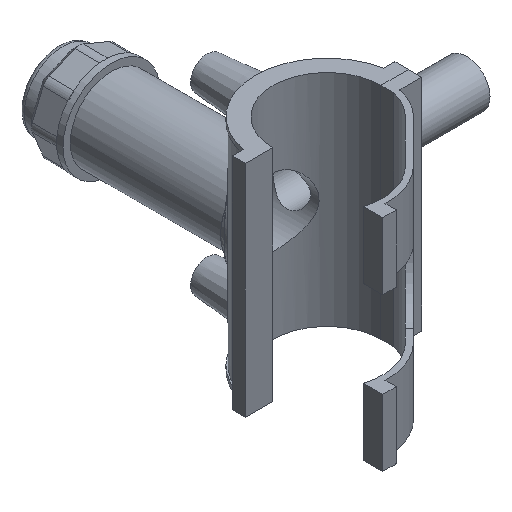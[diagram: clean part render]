
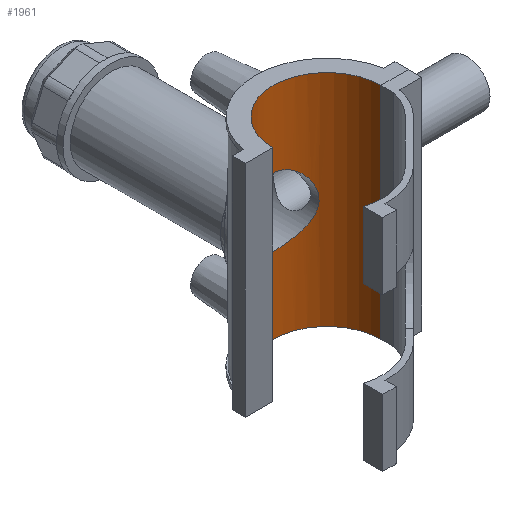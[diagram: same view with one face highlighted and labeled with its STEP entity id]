
A CAD part, isometric view. The second image highlights one B-rep face of the part: STEP entity #1961.
In plain terms, the highlighted cylindrical face has radius 24.55 mm (diameter 49.1 mm), a partial arc.
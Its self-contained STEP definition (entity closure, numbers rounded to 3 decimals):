
#51=FACE_BOUND('',#632,.T.);
#52=B_SPLINE_CURVE_WITH_KNOTS('',3,(#2806,#2807,#2808,#2809,#2810,#2811,
#2812,#2813,#2814,#2815,#2816,#2817,#2818,#2819,#2820,#2821,#2822,#2823,
#2824,#2825,#2826,#2827,#2828,#2829,#2830,#2831,#2832,#2833,#2834,#2835,
#2836,#2837,#2838,#2839,#2840,#2841,#2842,#2843),.UNSPECIFIED.,.F.,.F.,
(4,2,2,2,2,2,2,2,2,2,2,2,2,2,2,2,2,2,4),(0.,0.303,0.606,
1.212,1.813,2.113,2.414,2.714,
3.015,3.616,4.222,4.525,4.828,
5.131,5.434,6.04,6.641,6.941,
7.242),.UNSPECIFIED.);
#53=B_SPLINE_CURVE_WITH_KNOTS('',3,(#2844,#2845,#2846,#2847,#2848,#2849,
#2850,#2851,#2852,#2853,#2854,#2855,#2856,#2857),.UNSPECIFIED.,.F.,.F.,
(4,2,2,2,2,2,4),(7.242,7.542,7.843,8.444,
9.05,9.353,9.656),.UNSPECIFIED.);
#179=LINE('',#3751,#336);
#180=LINE('',#3755,#337);
#336=VECTOR('',#2638,10.);
#337=VECTOR('',#2641,10.);
#420=CYLINDRICAL_SURFACE('',#2175,24.55);
#511=FACE_OUTER_BOUND('',#631,.T.);
#631=EDGE_LOOP('',(#1664,#1665,#1666,#1667));
#632=EDGE_LOOP('',(#1668,#1669));
#733=CIRCLE('',#2172,24.55);
#734=CIRCLE('',#2174,24.55);
#753=VERTEX_POINT('',#2803);
#754=VERTEX_POINT('',#2805);
#891=VERTEX_POINT('',#3745);
#893=VERTEX_POINT('',#3749);
#894=VERTEX_POINT('',#3753);
#895=VERTEX_POINT('',#3754);
#945=EDGE_CURVE('',#754,#753,#52,.T.);
#946=EDGE_CURVE('',#753,#754,#53,.T.);
#1154=EDGE_CURVE('',#891,#893,#179,.T.);
#1155=EDGE_CURVE('',#894,#895,#180,.T.);
#1161=EDGE_CURVE('',#891,#895,#733,.T.);
#1162=EDGE_CURVE('',#894,#893,#734,.T.);
#1664=ORIENTED_EDGE('',*,*,#1155,.T.);
#1665=ORIENTED_EDGE('',*,*,#1161,.F.);
#1666=ORIENTED_EDGE('',*,*,#1154,.T.);
#1667=ORIENTED_EDGE('',*,*,#1162,.F.);
#1668=ORIENTED_EDGE('',*,*,#945,.T.);
#1669=ORIENTED_EDGE('',*,*,#946,.T.);
#1961=ADVANCED_FACE('',(#511,#51),#420,.F.);
#2172=AXIS2_PLACEMENT_3D('',#3764,#2649,#2650);
#2174=AXIS2_PLACEMENT_3D('',#3766,#2653,#2654);
#2175=AXIS2_PLACEMENT_3D('',#3769,#2657,#2658);
#2638=DIRECTION('',(0.,0.,-1.));
#2641=DIRECTION('',(0.,0.,1.));
#2649=DIRECTION('center_axis',(0.,0.,-1.));
#2650=DIRECTION('ref_axis',(-1.,0.,0.));
#2653=DIRECTION('center_axis',(0.,0.,1.));
#2654=DIRECTION('ref_axis',(-1.,0.,0.));
#2657=DIRECTION('center_axis',(0.,0.,1.));
#2658=DIRECTION('ref_axis',(-1.,0.,0.));
#2803=CARTESIAN_POINT('',(0.,24.55,-15.467));
#2805=CARTESIAN_POINT('',(-15.467,19.065,0.));
#2806=CARTESIAN_POINT('Ctrl Pts',(-15.467,19.065,0.));
#2807=CARTESIAN_POINT('Ctrl Pts',(-15.467,19.065,1.01));
#2808=CARTESIAN_POINT('Ctrl Pts',(-15.366,19.148,2.039));
#2809=CARTESIAN_POINT('Ctrl Pts',(-14.959,19.468,4.062));
#2810=CARTESIAN_POINT('Ctrl Pts',(-14.653,19.704,5.055));
#2811=CARTESIAN_POINT('Ctrl Pts',(-13.459,20.555,7.891));
#2812=CARTESIAN_POINT('Ctrl Pts',(-12.284,21.309,9.589));
#2813=CARTESIAN_POINT('Ctrl Pts',(-9.6,22.644,12.273));
#2814=CARTESIAN_POINT('Ctrl Pts',(-7.899,23.327,13.456));
#2815=CARTESIAN_POINT('Ctrl Pts',(-5.051,24.045,14.655));
#2816=CARTESIAN_POINT('Ctrl Pts',(-4.053,24.235,14.962));
#2817=CARTESIAN_POINT('Ctrl Pts',(-2.029,24.487,15.368));
#2818=CARTESIAN_POINT('Ctrl Pts',(-1.002,24.55,15.467));
#2819=CARTESIAN_POINT('Ctrl Pts',(1.002,24.55,15.467));
#2820=CARTESIAN_POINT('Ctrl Pts',(2.029,24.487,15.368));
#2821=CARTESIAN_POINT('Ctrl Pts',(4.053,24.235,14.962));
#2822=CARTESIAN_POINT('Ctrl Pts',(5.051,24.045,14.655));
#2823=CARTESIAN_POINT('Ctrl Pts',(7.899,23.327,13.456));
#2824=CARTESIAN_POINT('Ctrl Pts',(9.6,22.644,12.273));
#2825=CARTESIAN_POINT('Ctrl Pts',(12.284,21.309,9.589));
#2826=CARTESIAN_POINT('Ctrl Pts',(13.459,20.555,7.891));
#2827=CARTESIAN_POINT('Ctrl Pts',(14.653,19.704,5.055));
#2828=CARTESIAN_POINT('Ctrl Pts',(14.959,19.468,4.062));
#2829=CARTESIAN_POINT('Ctrl Pts',(15.366,19.148,2.039));
#2830=CARTESIAN_POINT('Ctrl Pts',(15.467,19.065,1.01));
#2831=CARTESIAN_POINT('Ctrl Pts',(15.467,19.065,-1.01));
#2832=CARTESIAN_POINT('Ctrl Pts',(15.366,19.148,-2.039));
#2833=CARTESIAN_POINT('Ctrl Pts',(14.959,19.468,-4.062));
#2834=CARTESIAN_POINT('Ctrl Pts',(14.653,19.704,-5.055));
#2835=CARTESIAN_POINT('Ctrl Pts',(13.459,20.555,-7.891));
#2836=CARTESIAN_POINT('Ctrl Pts',(12.284,21.309,-9.589));
#2837=CARTESIAN_POINT('Ctrl Pts',(9.6,22.644,-12.273));
#2838=CARTESIAN_POINT('Ctrl Pts',(7.899,23.327,-13.456));
#2839=CARTESIAN_POINT('Ctrl Pts',(5.051,24.045,-14.655));
#2840=CARTESIAN_POINT('Ctrl Pts',(4.053,24.235,-14.962));
#2841=CARTESIAN_POINT('Ctrl Pts',(2.029,24.487,-15.368));
#2842=CARTESIAN_POINT('Ctrl Pts',(1.002,24.55,-15.467));
#2843=CARTESIAN_POINT('Ctrl Pts',(0.,24.55,-15.467));
#2844=CARTESIAN_POINT('Ctrl Pts',(0.,24.55,-15.467));
#2845=CARTESIAN_POINT('Ctrl Pts',(-1.002,24.55,-15.467));
#2846=CARTESIAN_POINT('Ctrl Pts',(-2.029,24.487,-15.368));
#2847=CARTESIAN_POINT('Ctrl Pts',(-4.053,24.235,-14.962));
#2848=CARTESIAN_POINT('Ctrl Pts',(-5.051,24.045,-14.655));
#2849=CARTESIAN_POINT('Ctrl Pts',(-7.899,23.327,-13.456));
#2850=CARTESIAN_POINT('Ctrl Pts',(-9.6,22.644,-12.273));
#2851=CARTESIAN_POINT('Ctrl Pts',(-12.284,21.309,-9.589));
#2852=CARTESIAN_POINT('Ctrl Pts',(-13.459,20.555,-7.891));
#2853=CARTESIAN_POINT('Ctrl Pts',(-14.653,19.704,-5.055));
#2854=CARTESIAN_POINT('Ctrl Pts',(-14.959,19.468,-4.062));
#2855=CARTESIAN_POINT('Ctrl Pts',(-15.366,19.148,-2.039));
#2856=CARTESIAN_POINT('Ctrl Pts',(-15.467,19.065,-1.01));
#2857=CARTESIAN_POINT('Ctrl Pts',(-15.467,19.065,0.));
#3745=CARTESIAN_POINT('',(-24.55,0.05,50.038));
#3749=CARTESIAN_POINT('',(-24.55,0.05,-50.038));
#3751=CARTESIAN_POINT('',(-24.55,0.05,0.));
#3753=CARTESIAN_POINT('',(24.55,0.05,-50.038));
#3754=CARTESIAN_POINT('',(24.55,0.05,50.038));
#3755=CARTESIAN_POINT('',(24.55,0.05,0.));
#3764=CARTESIAN_POINT('Origin',(0.,0.,50.038));
#3766=CARTESIAN_POINT('Origin',(0.,0.,-50.038));
#3769=CARTESIAN_POINT('Origin',(0.,0.,0.));
